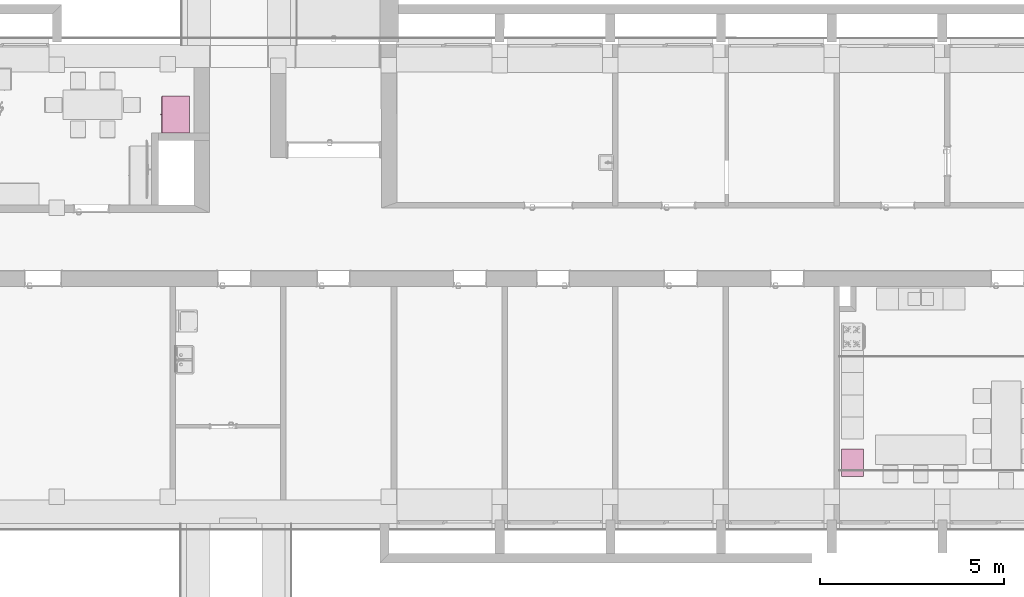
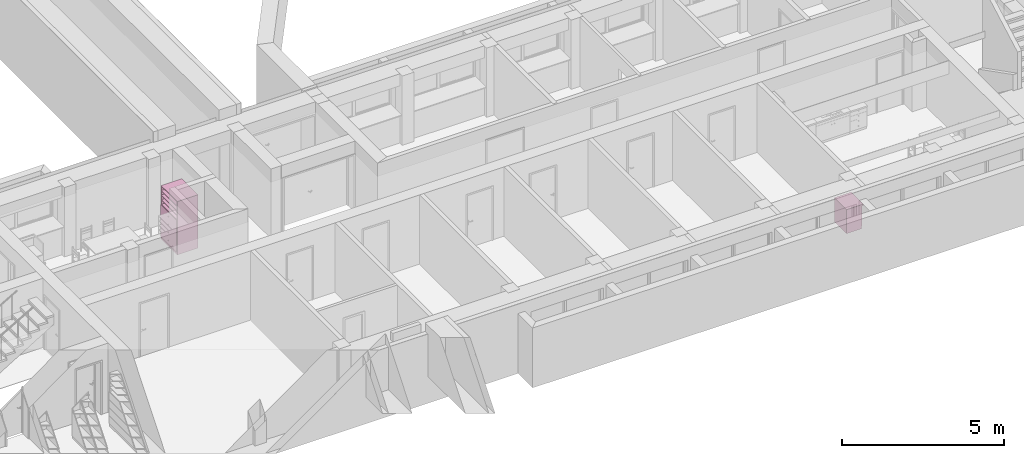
# One storey, part 106 of 127: 2 furnishings.
"""IFC2X3 building model written with IfcOpenShell, lengths in millimetres."""

from ifc_helpers import new_model, entity, si_unit, converted_unit, derived_unit, money_unit, direction, frame, origin_with_axes, place, context, subcontext, project, spatial, faceted_brep, type_object, element, save


model = new_model("IFC2X3")

# Units and contexts
model_context = context("Model", 3, precision=1e-05, world=origin_with_axes(), true_north=direction((0.0, 1.0)))
body_context = subcontext(model_context, "Body", "Model", "MODEL_VIEW")
ifc_project = project(units=[si_unit("LENGTHUNIT", "METRE", prefix="MILLI"), si_unit("AREAUNIT", "SQUARE_METRE"), si_unit("VOLUMEUNIT", "CUBIC_METRE"), converted_unit("PLANEANGLEUNIT", "DEGREE", entity("IfcPlaneAngleMeasure", 0.0174532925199), si_unit("PLANEANGLEUNIT", "RADIAN"), dimensions=[0, 0, 0, 0, 0, 0, 0]), si_unit("SOLIDANGLEUNIT", "STERADIAN"), money_unit("EUR"), converted_unit("TIMEUNIT", "Year", entity("IfcTimeMeasure", 31556926.0), si_unit("TIMEUNIT", "SECOND"), dimensions=[0, 0, 1, 0, 0, 0, 0]), si_unit("MASSUNIT", "GRAM", prefix="KILO"), si_unit("THERMODYNAMICTEMPERATUREUNIT", "DEGREE_CELSIUS"), si_unit("LUMINOUSINTENSITYUNIT", "LUMEN"), si_unit("ENERGYUNIT", "JOULE", prefix="MEGA"), derived_unit("THERMALCONDUCTANCEUNIT", [(si_unit("POWERUNIT", "WATT"), 1), (si_unit("LENGTHUNIT", "METRE"), -1), (si_unit("THERMODYNAMICTEMPERATUREUNIT", "KELVIN"), -1)]), derived_unit("SPECIFICHEATCAPACITYUNIT", [(si_unit("ENERGYUNIT", "JOULE"), 1), (si_unit("MASSUNIT", "GRAM", prefix="KILO"), -1), (si_unit("THERMODYNAMICTEMPERATUREUNIT", "KELVIN"), -1)]), derived_unit("MASSDENSITYUNIT", [(si_unit("MASSUNIT", "GRAM", prefix="KILO"), 1), (si_unit("VOLUMEUNIT", "CUBIC_METRE"), -1)])], contexts=[model_context])

# Site, building, storey
site_placement = place(None, origin_with_axes())
site = spatial("IfcSite", under=ifc_project, at=site_placement, Name="Site", CompositionType="ELEMENT")
building_placement = place(site_placement, origin_with_axes())
building = spatial("IfcBuilding", under=site, at=building_placement, Name="Building", CompositionType="ELEMENT")
storey_placement = place(building_placement, origin_with_axes())
storey = spatial("IfcBuildingStorey", under=building, at=storey_placement, Name="1 KORRUS", CompositionType="ELEMENT", Elevation=0.0)

# Furnishings
furnishing_element_type_1 = type_object("IfcFurnishingElementType", Name="Model Element 14")
furnishing_1_placement = place(storey_placement, frame((55806.141384, 35524.3989071, 0.0), z_axis=(0.0, 0.0, 1.0), x_axis=(0.0, 1.0, 0.0)))
element("IfcFurnishingElement", 1, at=furnishing_1_placement, inside=storey, type_object=furnishing_element_type_1, Name="FU - 007", context=body_context, shape_type="Brep", body=[
    faceted_brep([(1.5, 70.0, 91.5), (748.5, 70.0, 91.5), (748.5, 50.0, 91.5), (1.5, 50.0, 91.5), (1.5, 70.0, 278.5), (748.5, 70.0, 278.5), (748.5, 50.0, 278.5), (1.5, 50.0, 278.5)], [[[0, 1, 2, 3]], [[0, 4, 5, 1]], [[1, 5, 6, 2]], [[3, 2, 6, 7]], [[4, 0, 3, 7]], [[5, 4, 7, 6]]]),
    faceted_brep([(370.407798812, 50.0, 203.91344561), (366.514718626, 50.0, 206.514718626), (363.91344561, 50.0, 210.407798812), (363.0, 50.0, 215.0), (363.91344561, 50.0, 219.592201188), (366.514718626, 50.0, 223.485281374), (370.407798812, 50.0, 226.08655439), (375.0, 50.0, 227.0), (379.592201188, 50.0, 226.08655439), (383.485281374, 50.0, 223.485281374), (386.08655439, 50.0, 219.592201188), (387.0, 50.0, 215.0), (386.08655439, 50.0, 210.407798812), (383.485281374, 50.0, 206.514718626), (379.592201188, 50.0, 203.91344561), (375.0, 50.0, 203.0), (370.407798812, 25.0, 203.91344561), (366.514718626, 25.0, 206.514718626), (363.91344561, 25.0, 210.407798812), (363.0, 25.0, 215.0), (363.91344561, 25.0, 219.592201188), (366.514718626, 25.0, 223.485281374), (370.407798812, 25.0, 226.08655439), (375.0, 25.0, 227.0), (379.592201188, 25.0, 226.08655439), (383.485281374, 25.0, 223.485281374), (386.08655439, 25.0, 219.592201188), (387.0, 25.0, 215.0), (386.08655439, 25.0, 210.407798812), (383.485281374, 25.0, 206.514718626), (379.592201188, 25.0, 203.91344561), (375.0, 25.0, 203.0)], [[[0, 1, 2, 3, 4, 5, 6, 7, 8, 9, 10, 11, 12, 13, 14, 15]], [[1, 0, 16, 17]], [[2, 1, 17, 18]], [[3, 2, 18, 19]], [[4, 3, 19, 20]], [[5, 4, 20, 21]], [[6, 5, 21, 22]], [[7, 6, 22, 23]], [[8, 7, 23, 24]], [[9, 8, 24, 25]], [[10, 9, 25, 26]], [[11, 10, 26, 27]], [[12, 11, 27, 28]], [[13, 12, 28, 29]], [[14, 13, 29, 30]], [[15, 14, 30, 31]], [[0, 15, 31, 16]], [[16, 31, 30, 29, 28, 27, 26, 25, 24, 23, 22, 21, 20, 19, 18, 17]]]),
    faceted_brep([(1.5, 70.0, 281.5), (748.5, 70.0, 281.5), (748.5, 50.0, 281.5), (1.5, 50.0, 281.5), (1.5, 70.0, 468.5), (748.5, 70.0, 468.5), (748.5, 50.0, 468.5), (1.5, 50.0, 468.5)], [[[0, 1, 2, 3]], [[0, 4, 5, 1]], [[1, 5, 6, 2]], [[3, 2, 6, 7]], [[4, 0, 3, 7]], [[5, 4, 7, 6]]]),
    faceted_brep([(370.407798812, 50.0, 393.91344561), (366.514718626, 50.0, 396.514718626), (363.91344561, 50.0, 400.407798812), (363.0, 50.0, 405.0), (363.91344561, 50.0, 409.592201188), (366.514718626, 50.0, 413.485281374), (370.407798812, 50.0, 416.08655439), (375.0, 50.0, 417.0), (379.592201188, 50.0, 416.08655439), (383.485281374, 50.0, 413.485281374), (386.08655439, 50.0, 409.592201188), (387.0, 50.0, 405.0), (386.08655439, 50.0, 400.407798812), (383.485281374, 50.0, 396.514718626), (379.592201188, 50.0, 393.91344561), (375.0, 50.0, 393.0), (370.407798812, 25.0, 393.91344561), (366.514718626, 25.0, 396.514718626), (363.91344561, 25.0, 400.407798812), (363.0, 25.0, 405.0), (363.91344561, 25.0, 409.592201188), (366.514718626, 25.0, 413.485281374), (370.407798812, 25.0, 416.08655439), (375.0, 25.0, 417.0), (379.592201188, 25.0, 416.08655439), (383.485281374, 25.0, 413.485281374), (386.08655439, 25.0, 409.592201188), (387.0, 25.0, 405.0), (386.08655439, 25.0, 400.407798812), (383.485281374, 25.0, 396.514718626), (379.592201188, 25.0, 393.91344561), (375.0, 25.0, 393.0)], [[[0, 1, 2, 3, 4, 5, 6, 7, 8, 9, 10, 11, 12, 13, 14, 15]], [[1, 0, 16, 17]], [[2, 1, 17, 18]], [[3, 2, 18, 19]], [[4, 3, 19, 20]], [[5, 4, 20, 21]], [[6, 5, 21, 22]], [[7, 6, 22, 23]], [[8, 7, 23, 24]], [[9, 8, 24, 25]], [[10, 9, 25, 26]], [[11, 10, 26, 27]], [[12, 11, 27, 28]], [[13, 12, 28, 29]], [[14, 13, 29, 30]], [[15, 14, 30, 31]], [[0, 15, 31, 16]], [[16, 31, 30, 29, 28, 27, 26, 25, 24, 23, 22, 21, 20, 19, 18, 17]]]),
    faceted_brep([(20.0, 70.0, 280.0), (730.0, 70.0, 280.0), (730.0, 70.0, 300.0), (20.0, 70.0, 300.0), (20.0, 580.0, 280.0), (730.0, 580.0, 280.0), (730.0, 580.0, 300.0), (20.0, 580.0, 300.0)], [[[0, 1, 2, 3]], [[0, 4, 5, 1]], [[1, 5, 6, 2]], [[3, 2, 6, 7]], [[4, 0, 3, 7]], [[5, 4, 7, 6]]]),
    faceted_brep([(1.5, 70.0, 471.5), (748.5, 70.0, 471.5), (748.5, 50.0, 471.5), (1.5, 50.0, 471.5), (1.5, 70.0, 658.5), (748.5, 70.0, 658.5), (748.5, 50.0, 658.5), (1.5, 50.0, 658.5)], [[[0, 1, 2, 3]], [[0, 4, 5, 1]], [[1, 5, 6, 2]], [[3, 2, 6, 7]], [[4, 0, 3, 7]], [[5, 4, 7, 6]]]),
    faceted_brep([(370.407798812, 50.0, 583.91344561), (366.514718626, 50.0, 586.514718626), (363.91344561, 50.0, 590.407798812), (363.0, 50.0, 595.0), (363.91344561, 50.0, 599.592201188), (366.514718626, 50.0, 603.485281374), (370.407798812, 50.0, 606.08655439), (375.0, 50.0, 607.0), (379.592201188, 50.0, 606.08655439), (383.485281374, 50.0, 603.485281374), (386.08655439, 50.0, 599.592201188), (387.0, 50.0, 595.0), (386.08655439, 50.0, 590.407798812), (383.485281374, 50.0, 586.514718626), (379.592201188, 50.0, 583.91344561), (375.0, 50.0, 583.0), (370.407798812, 25.0, 583.91344561), (366.514718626, 25.0, 586.514718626), (363.91344561, 25.0, 590.407798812), (363.0, 25.0, 595.0), (363.91344561, 25.0, 599.592201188), (366.514718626, 25.0, 603.485281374), (370.407798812, 25.0, 606.08655439), (375.0, 25.0, 607.0), (379.592201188, 25.0, 606.08655439), (383.485281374, 25.0, 603.485281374), (386.08655439, 25.0, 599.592201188), (387.0, 25.0, 595.0), (386.08655439, 25.0, 590.407798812), (383.485281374, 25.0, 586.514718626), (379.592201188, 25.0, 583.91344561), (375.0, 25.0, 583.0)], [[[0, 1, 2, 3, 4, 5, 6, 7, 8, 9, 10, 11, 12, 13, 14, 15]], [[1, 0, 16, 17]], [[2, 1, 17, 18]], [[3, 2, 18, 19]], [[4, 3, 19, 20]], [[5, 4, 20, 21]], [[6, 5, 21, 22]], [[7, 6, 22, 23]], [[8, 7, 23, 24]], [[9, 8, 24, 25]], [[10, 9, 25, 26]], [[11, 10, 26, 27]], [[12, 11, 27, 28]], [[13, 12, 28, 29]], [[14, 13, 29, 30]], [[15, 14, 30, 31]], [[0, 15, 31, 16]], [[16, 31, 30, 29, 28, 27, 26, 25, 24, 23, 22, 21, 20, 19, 18, 17]]]),
    faceted_brep([(20.0, 70.0, 470.0), (730.0, 70.0, 470.0), (730.0, 70.0, 490.0), (20.0, 70.0, 490.0), (20.0, 580.0, 470.0), (730.0, 580.0, 470.0), (730.0, 580.0, 490.0), (20.0, 580.0, 490.0)], [[[0, 1, 2, 3]], [[0, 4, 5, 1]], [[1, 5, 6, 2]], [[3, 2, 6, 7]], [[4, 0, 3, 7]], [[5, 4, 7, 6]]]),
    faceted_brep([(1.5, 70.0, 661.5), (748.5, 70.0, 661.5), (748.5, 50.0, 661.5), (1.5, 50.0, 661.5), (1.5, 70.0, 848.5), (748.5, 70.0, 848.5), (748.5, 50.0, 848.5), (1.5, 50.0, 848.5)], [[[0, 1, 2, 3]], [[0, 4, 5, 1]], [[1, 5, 6, 2]], [[3, 2, 6, 7]], [[4, 0, 3, 7]], [[5, 4, 7, 6]]]),
    faceted_brep([(370.407798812, 50.0, 773.91344561), (366.514718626, 50.0, 776.514718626), (363.91344561, 50.0, 780.407798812), (363.0, 50.0, 785.0), (363.91344561, 50.0, 789.592201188), (366.514718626, 50.0, 793.485281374), (370.407798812, 50.0, 796.08655439), (375.0, 50.0, 797.0), (379.592201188, 50.0, 796.08655439), (383.485281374, 50.0, 793.485281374), (386.08655439, 50.0, 789.592201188), (387.0, 50.0, 785.0), (386.08655439, 50.0, 780.407798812), (383.485281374, 50.0, 776.514718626), (379.592201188, 50.0, 773.91344561), (375.0, 50.0, 773.0), (370.407798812, 25.0, 773.91344561), (366.514718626, 25.0, 776.514718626), (363.91344561, 25.0, 780.407798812), (363.0, 25.0, 785.0), (363.91344561, 25.0, 789.592201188), (366.514718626, 25.0, 793.485281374), (370.407798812, 25.0, 796.08655439), (375.0, 25.0, 797.0), (379.592201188, 25.0, 796.08655439), (383.485281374, 25.0, 793.485281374), (386.08655439, 25.0, 789.592201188), (387.0, 25.0, 785.0), (386.08655439, 25.0, 780.407798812), (383.485281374, 25.0, 776.514718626), (379.592201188, 25.0, 773.91344561), (375.0, 25.0, 773.0)], [[[0, 1, 2, 3, 4, 5, 6, 7, 8, 9, 10, 11, 12, 13, 14, 15]], [[1, 0, 16, 17]], [[2, 1, 17, 18]], [[3, 2, 18, 19]], [[4, 3, 19, 20]], [[5, 4, 20, 21]], [[6, 5, 21, 22]], [[7, 6, 22, 23]], [[8, 7, 23, 24]], [[9, 8, 24, 25]], [[10, 9, 25, 26]], [[11, 10, 26, 27]], [[12, 11, 27, 28]], [[13, 12, 28, 29]], [[14, 13, 29, 30]], [[15, 14, 30, 31]], [[0, 15, 31, 16]], [[16, 31, 30, 29, 28, 27, 26, 25, 24, 23, 22, 21, 20, 19, 18, 17]]]),
    faceted_brep([(20.0, 70.0, 660.0), (730.0, 70.0, 660.0), (730.0, 70.0, 680.0), (20.0, 70.0, 680.0), (20.0, 580.0, 660.0), (730.0, 580.0, 660.0), (730.0, 580.0, 680.0), (20.0, 580.0, 680.0)], [[[0, 1, 2, 3]], [[0, 4, 5, 1]], [[1, 5, 6, 2]], [[3, 2, 6, 7]], [[4, 0, 3, 7]], [[5, 4, 7, 6]]]),
    faceted_brep([(0.0, 70.0, 0.0), (750.0, 70.0, 0.0), (750.0, 70.0, 90.0), (0.0, 70.0, 90.0), (0.0, 600.0, 0.0), (750.0, 600.0, 0.0), (750.0, 600.0, 90.0), (0.0, 600.0, 90.0)], [[[0, 1, 2, 3]], [[0, 4, 5, 1]], [[1, 5, 6, 2]], [[3, 2, 6, 7]], [[4, 0, 3, 7]], [[5, 4, 7, 6]]]),
    faceted_brep([(0.0, 70.0, 830.0), (20.0, 70.0, 830.0), (20.0, 70.0, 850.0), (0.0, 70.0, 850.0), (0.0, 600.0, 830.0), (20.0, 600.0, 830.0), (730.0, 600.0, 830.0), (750.0, 600.0, 830.0), (750.0, 70.0, 830.0), (730.0, 70.0, 830.0), (730.0, 70.0, 850.0), (750.0, 70.0, 850.0), (750.0, 600.0, 850.0), (730.0, 600.0, 850.0), (20.0, 600.0, 850.0), (0.0, 600.0, 850.0)], [[[0, 1, 2, 3]], [[0, 4, 5, 6, 7, 8, 9, 1]], [[1, 9, 10, 2]], [[3, 2, 10, 11, 12, 13, 14, 15]], [[4, 0, 3, 15]], [[5, 4, 15, 14]], [[6, 5, 14, 13]], [[7, 6, 13, 12]], [[8, 7, 12, 11]], [[9, 8, 11, 10]]]),
    faceted_brep([(0.0, 70.0, 90.0), (20.0, 70.0, 90.0), (20.0, 70.0, 110.0), (0.0, 70.0, 110.0), (0.0, 600.0, 90.0), (20.0, 600.0, 90.0), (730.0, 600.0, 90.0), (750.0, 600.0, 90.0), (750.0, 70.0, 90.0), (730.0, 70.0, 90.0), (730.0, 70.0, 110.0), (750.0, 70.0, 110.0), (750.0, 600.0, 110.0), (730.0, 600.0, 110.0), (20.0, 600.0, 110.0), (0.0, 600.0, 110.0)], [[[0, 1, 2, 3]], [[0, 4, 5, 6, 7, 8, 9, 1]], [[1, 9, 10, 2]], [[3, 2, 10, 11, 12, 13, 14, 15]], [[4, 0, 3, 15]], [[5, 4, 15, 14]], [[6, 5, 14, 13]], [[7, 6, 13, 12]], [[8, 7, 12, 11]], [[9, 8, 11, 10]]]),
    faceted_brep([(0.0, 70.0, 110.0), (20.0, 70.0, 110.0), (20.0, 70.0, 830.0), (0.0, 70.0, 830.0), (0.0, 600.0, 110.0), (750.0, 600.0, 110.0), (750.0, 70.0, 110.0), (730.0, 70.0, 110.0), (730.0, 580.0, 110.0), (20.0, 580.0, 110.0), (20.0, 580.0, 830.0), (730.0, 580.0, 830.0), (730.0, 70.0, 830.0), (750.0, 70.0, 830.0), (750.0, 600.0, 830.0), (0.0, 600.0, 830.0)], [[[0, 1, 2, 3]], [[0, 4, 5, 6, 7, 8, 9, 1]], [[1, 9, 10, 2]], [[3, 2, 10, 11, 12, 13, 14, 15]], [[4, 0, 3, 15]], [[5, 4, 15, 14]], [[6, 5, 14, 13]], [[7, 6, 13, 12]], [[8, 7, 12, 11]], [[9, 8, 11, 10]]]),
    faceted_brep([(0.0, 0.0, 850.0), (750.0, 0.0, 850.0), (750.0, 0.0, 900.0), (0.0, 0.0, 900.0), (0.0, 600.0, 850.0), (750.0, 600.0, 850.0), (750.0, 600.0, 900.0), (0.0, 600.0, 900.0)], [[[0, 1, 2, 3]], [[0, 4, 5, 1]], [[1, 5, 6, 2]], [[3, 2, 6, 7]], [[4, 0, 3, 7]], [[5, 4, 7, 6]]]),
])
furnishing_element_type_2 = type_object("IfcFurnishingElementType", Name="Model Element 4")
furnishing_2_placement = place(storey_placement, frame((36778.2105111, 45838.6870986, 0.0), z_axis=(0.0, 0.0, 1.0), x_axis=(0.0, -1.0, 0.0)))
element("IfcFurnishingElement", 2, at=furnishing_2_placement, inside=storey, type_object=furnishing_element_type_2, Name="FU - 003", context=body_context, shape_type="Brep", body=[
    faceted_brep([(1000.0, 19.0, 0.0), (0.0, 19.0, 0.0), (0.0, 755.641502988, 0.0), (1000.0, 755.641502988, 0.0), (1000.0, 19.0, 100.0), (0.0, 19.0, 100.0), (0.0, 755.641502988, 100.0), (1000.0, 755.641502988, 100.0)], [[[0, 1, 2, 3]], [[1, 0, 4, 5]], [[2, 1, 5, 6]], [[3, 2, 6, 7]], [[0, 3, 7, 4]], [[5, 4, 7, 6]]]),
    faceted_brep([(19.0, 755.641502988, 119.0), (19.0, 736.641502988, 119.0), (19.0, 736.641502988, 1981.0), (19.0, 755.641502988, 1981.0), (981.0, 755.641502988, 119.0), (981.0, 736.641502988, 119.0), (981.0, 736.641502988, 1981.0), (981.0, 755.641502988, 1981.0)], [[[0, 1, 2, 3]], [[0, 4, 5, 1]], [[1, 5, 6, 2]], [[3, 2, 6, 7]], [[4, 0, 3, 7]], [[5, 4, 7, 6]]]),
    faceted_brep([(1000.0, 19.0, 100.0), (981.0, 19.0, 100.0), (981.0, 755.641502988, 100.0), (1000.0, 755.641502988, 100.0), (1000.0, 19.0, 2000.0), (981.0, 19.0, 2000.0), (981.0, 755.641502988, 2000.0), (1000.0, 755.641502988, 2000.0)], [[[0, 1, 2, 3]], [[1, 0, 4, 5]], [[2, 1, 5, 6]], [[3, 2, 6, 7]], [[0, 3, 7, 4]], [[5, 4, 7, 6]]]),
    faceted_brep([(19.0, 19.0, 100.0), (0.0, 19.0, 100.0), (0.0, 755.641502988, 100.0), (19.0, 755.641502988, 100.0), (19.0, 19.0, 2000.0), (0.0, 19.0, 2000.0), (0.0, 755.641502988, 2000.0), (19.0, 755.641502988, 2000.0)], [[[0, 1, 2, 3]], [[1, 0, 4, 5]], [[2, 1, 5, 6]], [[3, 2, 6, 7]], [[0, 3, 7, 4]], [[5, 4, 7, 6]]]),
    faceted_brep([(981.0, 19.0, 100.0), (19.0, 19.0, 100.0), (19.0, 755.641502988, 100.0), (981.0, 755.641502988, 100.0), (981.0, 19.0, 119.0), (19.0, 19.0, 119.0), (19.0, 755.641502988, 119.0), (981.0, 755.641502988, 119.0)], [[[0, 1, 2, 3]], [[1, 0, 4, 5]], [[2, 1, 5, 6]], [[3, 2, 6, 7]], [[0, 3, 7, 4]], [[5, 4, 7, 6]]]),
    faceted_brep([(981.0, 19.0, 1981.0), (19.0, 19.0, 1981.0), (19.0, 755.641502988, 1981.0), (981.0, 755.641502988, 1981.0), (981.0, 19.0, 2000.0), (19.0, 19.0, 2000.0), (19.0, 755.641502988, 2000.0), (981.0, 755.641502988, 2000.0)], [[[0, 1, 2, 3]], [[1, 0, 4, 5]], [[2, 1, 5, 6]], [[3, 2, 6, 7]], [[0, 3, 7, 4]], [[5, 4, 7, 6]]]),
    faceted_brep([(5.0, 19.0, 105.0), (995.0, 19.0, 105.0), (995.0, 0.0, 105.0), (5.0, 0.0, 105.0), (5.0, 19.0, 395.0), (995.0, 19.0, 395.0), (995.0, 0.0, 395.0), (5.0, 0.0, 395.0)], [[[0, 1, 2, 3]], [[0, 4, 5, 1]], [[1, 5, 6, 2]], [[3, 2, 6, 7]], [[4, 0, 3, 7]], [[5, 4, 7, 6]]]),
    faceted_brep([(510.392304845, 0.0, 244.0), (506.0, 0.0, 239.607695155), (500.0, 0.0, 238.0), (494.0, 0.0, 239.607695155), (489.607695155, 0.0, 244.0), (488.0, 0.0, 250.0), (489.607695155, 0.0, 256.0), (494.0, 0.0, 260.392304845), (500.0, 0.0, 262.0), (506.0, 0.0, 260.392304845), (510.392304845, 0.0, 256.0), (512.0, 0.0, 250.0), (510.392304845, -25.0, 244.0), (506.0, -25.0, 239.607695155), (500.0, -25.0, 238.0), (494.0, -25.0, 239.607695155), (489.607695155, -25.0, 244.0), (488.0, -25.0, 250.0), (489.607695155, -25.0, 256.0), (494.0, -25.0, 260.392304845), (500.0, -25.0, 262.0), (506.0, -25.0, 260.392304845), (510.392304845, -25.0, 256.0), (512.0, -25.0, 250.0)], [[[0, 1, 2, 3, 4, 5, 6, 7, 8, 9, 10, 11]], [[1, 0, 12, 13]], [[2, 1, 13, 14]], [[3, 2, 14, 15]], [[4, 3, 15, 16]], [[5, 4, 16, 17]], [[6, 5, 17, 18]], [[7, 6, 18, 19]], [[8, 7, 19, 20]], [[9, 8, 20, 21]], [[10, 9, 21, 22]], [[11, 10, 22, 23]], [[0, 11, 23, 12]], [[12, 23, 22, 21, 20, 19, 18, 17, 16, 15, 14, 13]]]),
    faceted_brep([(5.0, 19.0, 405.0), (995.0, 19.0, 405.0), (995.0, 0.0, 405.0), (5.0, 0.0, 405.0), (5.0, 19.0, 695.0), (995.0, 19.0, 695.0), (995.0, 0.0, 695.0), (5.0, 0.0, 695.0)], [[[0, 1, 2, 3]], [[0, 4, 5, 1]], [[1, 5, 6, 2]], [[3, 2, 6, 7]], [[4, 0, 3, 7]], [[5, 4, 7, 6]]]),
    faceted_brep([(510.392304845, 0.0, 544.0), (506.0, 0.0, 539.607695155), (500.0, 0.0, 538.0), (494.0, 0.0, 539.607695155), (489.607695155, 0.0, 544.0), (488.0, 0.0, 550.0), (489.607695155, 0.0, 556.0), (494.0, 0.0, 560.392304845), (500.0, 0.0, 562.0), (506.0, 0.0, 560.392304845), (510.392304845, 0.0, 556.0), (512.0, 0.0, 550.0), (510.392304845, -25.0, 544.0), (506.0, -25.0, 539.607695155), (500.0, -25.0, 538.0), (494.0, -25.0, 539.607695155), (489.607695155, -25.0, 544.0), (488.0, -25.0, 550.0), (489.607695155, -25.0, 556.0), (494.0, -25.0, 560.392304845), (500.0, -25.0, 562.0), (506.0, -25.0, 560.392304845), (510.392304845, -25.0, 556.0), (512.0, -25.0, 550.0)], [[[0, 1, 2, 3, 4, 5, 6, 7, 8, 9, 10, 11]], [[1, 0, 12, 13]], [[2, 1, 13, 14]], [[3, 2, 14, 15]], [[4, 3, 15, 16]], [[5, 4, 16, 17]], [[6, 5, 17, 18]], [[7, 6, 18, 19]], [[8, 7, 19, 20]], [[9, 8, 20, 21]], [[10, 9, 21, 22]], [[11, 10, 22, 23]], [[0, 11, 23, 12]], [[12, 23, 22, 21, 20, 19, 18, 17, 16, 15, 14, 13]]]),
    faceted_brep([(5.0, 19.0, 705.0), (995.0, 19.0, 705.0), (995.0, 0.0, 705.0), (5.0, 0.0, 705.0), (5.0, 19.0, 995.0), (995.0, 19.0, 995.0), (995.0, 0.0, 995.0), (5.0, 0.0, 995.0)], [[[0, 1, 2, 3]], [[0, 4, 5, 1]], [[1, 5, 6, 2]], [[3, 2, 6, 7]], [[4, 0, 3, 7]], [[5, 4, 7, 6]]]),
    faceted_brep([(510.392304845, 0.0, 844.0), (506.0, 0.0, 839.607695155), (500.0, 0.0, 838.0), (494.0, 0.0, 839.607695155), (489.607695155, 0.0, 844.0), (488.0, 0.0, 850.0), (489.607695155, 0.0, 856.0), (494.0, 0.0, 860.392304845), (500.0, 0.0, 862.0), (506.0, 0.0, 860.392304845), (510.392304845, 0.0, 856.0), (512.0, 0.0, 850.0), (510.392304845, -25.0, 844.0), (506.0, -25.0, 839.607695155), (500.0, -25.0, 838.0), (494.0, -25.0, 839.607695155), (489.607695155, -25.0, 844.0), (488.0, -25.0, 850.0), (489.607695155, -25.0, 856.0), (494.0, -25.0, 860.392304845), (500.0, -25.0, 862.0), (506.0, -25.0, 860.392304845), (510.392304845, -25.0, 856.0), (512.0, -25.0, 850.0)], [[[0, 1, 2, 3, 4, 5, 6, 7, 8, 9, 10, 11]], [[1, 0, 12, 13]], [[2, 1, 13, 14]], [[3, 2, 14, 15]], [[4, 3, 15, 16]], [[5, 4, 16, 17]], [[6, 5, 17, 18]], [[7, 6, 18, 19]], [[8, 7, 19, 20]], [[9, 8, 20, 21]], [[10, 9, 21, 22]], [[11, 10, 22, 23]], [[0, 11, 23, 12]], [[12, 23, 22, 21, 20, 19, 18, 17, 16, 15, 14, 13]]]),
    faceted_brep([(5.0, 19.0, 1005.0), (995.0, 19.0, 1005.0), (995.0, 0.0, 1005.0), (5.0, 0.0, 1005.0), (5.0, 19.0, 1295.0), (995.0, 19.0, 1295.0), (995.0, 0.0, 1295.0), (5.0, 0.0, 1295.0)], [[[0, 1, 2, 3]], [[0, 4, 5, 1]], [[1, 5, 6, 2]], [[3, 2, 6, 7]], [[4, 0, 3, 7]], [[5, 4, 7, 6]]]),
    faceted_brep([(510.392304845, 0.0, 1144.0), (506.0, 0.0, 1139.60769515), (500.0, 0.0, 1138.0), (494.0, 0.0, 1139.60769515), (489.607695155, 0.0, 1144.0), (488.0, 0.0, 1150.0), (489.607695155, 0.0, 1156.0), (494.0, 0.0, 1160.39230485), (500.0, 0.0, 1162.0), (506.0, 0.0, 1160.39230485), (510.392304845, 0.0, 1156.0), (512.0, 0.0, 1150.0), (510.392304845, -25.0, 1144.0), (506.0, -25.0, 1139.60769515), (500.0, -25.0, 1138.0), (494.0, -25.0, 1139.60769515), (489.607695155, -25.0, 1144.0), (488.0, -25.0, 1150.0), (489.607695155, -25.0, 1156.0), (494.0, -25.0, 1160.39230485), (500.0, -25.0, 1162.0), (506.0, -25.0, 1160.39230485), (510.392304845, -25.0, 1156.0), (512.0, -25.0, 1150.0)], [[[0, 1, 2, 3, 4, 5, 6, 7, 8, 9, 10, 11]], [[1, 0, 12, 13]], [[2, 1, 13, 14]], [[3, 2, 14, 15]], [[4, 3, 15, 16]], [[5, 4, 16, 17]], [[6, 5, 17, 18]], [[7, 6, 18, 19]], [[8, 7, 19, 20]], [[9, 8, 20, 21]], [[10, 9, 21, 22]], [[11, 10, 22, 23]], [[0, 11, 23, 12]], [[12, 23, 22, 21, 20, 19, 18, 17, 16, 15, 14, 13]]]),
    faceted_brep([(19.0, 19.0, 390.5), (981.0, 19.0, 390.5), (981.0, 19.0, 409.5), (19.0, 19.0, 409.5), (19.0, 736.641502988, 390.5), (981.0, 736.641502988, 390.5), (981.0, 736.641502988, 409.5), (19.0, 736.641502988, 409.5)], [[[0, 1, 2, 3]], [[0, 4, 5, 1]], [[1, 5, 6, 2]], [[3, 2, 6, 7]], [[4, 0, 3, 7]], [[5, 4, 7, 6]]]),
    faceted_brep([(19.0, 19.0, 690.5), (981.0, 19.0, 690.5), (981.0, 19.0, 709.5), (19.0, 19.0, 709.5), (19.0, 736.641502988, 690.5), (981.0, 736.641502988, 690.5), (981.0, 736.641502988, 709.5), (19.0, 736.641502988, 709.5)], [[[0, 1, 2, 3]], [[0, 4, 5, 1]], [[1, 5, 6, 2]], [[3, 2, 6, 7]], [[4, 0, 3, 7]], [[5, 4, 7, 6]]]),
    faceted_brep([(19.0, 19.0, 990.5), (981.0, 19.0, 990.5), (981.0, 19.0, 1009.5), (19.0, 19.0, 1009.5), (19.0, 736.641502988, 990.5), (981.0, 736.641502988, 990.5), (981.0, 736.641502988, 1009.5), (19.0, 736.641502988, 1009.5)], [[[0, 1, 2, 3]], [[0, 4, 5, 1]], [[1, 5, 6, 2]], [[3, 2, 6, 7]], [[4, 0, 3, 7]], [[5, 4, 7, 6]]]),
    faceted_brep([(19.0, 19.0, 1290.5), (981.0, 19.0, 1290.5), (981.0, 19.0, 1309.5), (19.0, 19.0, 1309.5), (19.0, 736.641502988, 1290.5), (981.0, 736.641502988, 1290.5), (981.0, 736.641502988, 1309.5), (19.0, 736.641502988, 1309.5)], [[[0, 1, 2, 3]], [[0, 4, 5, 1]], [[1, 5, 6, 2]], [[3, 2, 6, 7]], [[4, 0, 3, 7]], [[5, 4, 7, 6]]]),
    faceted_brep([(981.0, 19.0, 1463.125), (19.0, 19.0, 1463.125), (19.0, 736.641502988, 1463.125), (981.0, 736.641502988, 1463.125), (981.0, 19.0, 1482.125), (19.0, 19.0, 1482.125), (19.0, 736.641502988, 1482.125), (981.0, 736.641502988, 1482.125)], [[[0, 1, 2, 3]], [[1, 0, 4, 5]], [[2, 1, 5, 6]], [[3, 2, 6, 7]], [[0, 3, 7, 4]], [[5, 4, 7, 6]]]),
    faceted_brep([(981.0, 19.0, 1635.75), (19.0, 19.0, 1635.75), (19.0, 736.641502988, 1635.75), (981.0, 736.641502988, 1635.75), (981.0, 19.0, 1654.75), (19.0, 19.0, 1654.75), (19.0, 736.641502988, 1654.75), (981.0, 736.641502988, 1654.75)], [[[0, 1, 2, 3]], [[1, 0, 4, 5]], [[2, 1, 5, 6]], [[3, 2, 6, 7]], [[0, 3, 7, 4]], [[5, 4, 7, 6]]]),
    faceted_brep([(981.0, 19.0, 1808.375), (19.0, 19.0, 1808.375), (19.0, 736.641502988, 1808.375), (981.0, 736.641502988, 1808.375), (981.0, 19.0, 1827.375), (19.0, 19.0, 1827.375), (19.0, 736.641502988, 1827.375), (981.0, 736.641502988, 1827.375)], [[[0, 1, 2, 3]], [[1, 0, 4, 5]], [[2, 1, 5, 6]], [[3, 2, 6, 7]], [[0, 3, 7, 4]], [[5, 4, 7, 6]]]),
])

save(model, "model.ifc")
